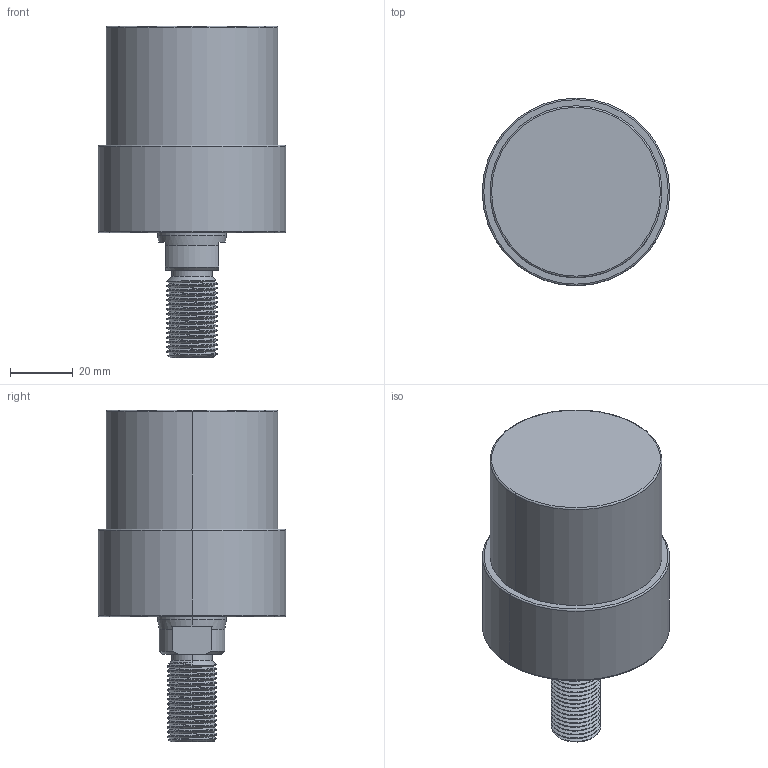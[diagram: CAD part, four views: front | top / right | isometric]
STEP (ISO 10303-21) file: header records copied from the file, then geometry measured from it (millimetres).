
FILE_DESCRIPTION (( 'STEP AP203' ), '1' );
FILE_NAME ('CLLU-055CT-025.STEP', '2020-01-16T00:24:45', ( '' ), ( '' ), 'SwSTEP 2.0', 'SolidWorks 2015', '' );
FILE_SCHEMA (( 'CONFIG_CONTROL_DESIGN' ));
Length unit declared in the file: millimetre
Products named in the file (1): CLLU-055CT-025
Bounding box: 60 x 60 x 106 mm (x, y, z)
Volume: 176744.8 mm3; surface area: 21533.3 mm2
Topology: 1 solids, 1 shells, 101 faces, 253 edges, 155 vertices
Faces by surface type: cylinder 55, cone 26, plane 12, torus 6, bspline 2
Entity records: 4856 total; most frequent: CARTESIAN_POINT 2586, ORIENTED_EDGE 490, DIRECTION 438, EDGE_CURVE 245, AXIS2_PLACEMENT_3D 176, VERTEX_POINT 155, EDGE_LOOP 110, FACE_OUTER_BOUND 101
